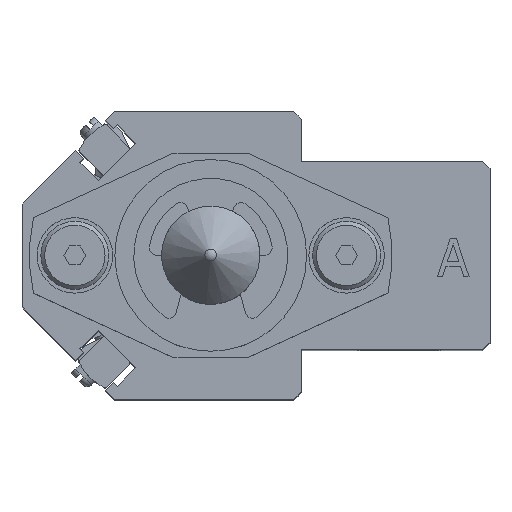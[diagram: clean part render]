
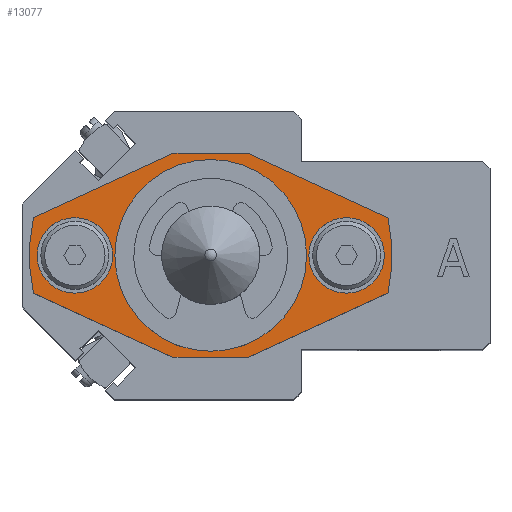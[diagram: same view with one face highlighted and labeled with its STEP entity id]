
A CAD part, top view. The second image highlights one B-rep face of the part: STEP entity #13077.
In plain terms, the highlighted planar face has unit normal (0, 0, 1).
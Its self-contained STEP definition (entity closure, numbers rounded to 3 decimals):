
#359=FACE_BOUND('',#4791,.T.);
#360=FACE_BOUND('',#4792,.T.);
#361=FACE_BOUND('',#4793,.T.);
#1538=LINE('',#21523,#2920);
#1545=LINE('',#21540,#2927);
#1546=LINE('',#21543,#2928);
#1547=LINE('',#21544,#2929);
#1548=LINE('',#21546,#2930);
#1549=LINE('',#21547,#2931);
#2920=VECTOR('',#17445,10.);
#2927=VECTOR('',#17460,10.);
#2928=VECTOR('',#17463,10.);
#2929=VECTOR('',#17464,10.);
#2930=VECTOR('',#17465,10.);
#2931=VECTOR('',#17466,10.);
#3402=CIRCLE('',#14339,10.5);
#3403=CIRCLE('',#14340,10.5);
#3410=CIRCLE('',#14351,24.);
#3412=CIRCLE('',#14354,24.);
#3415=CIRCLE('',#14361,5.);
#3416=CIRCLE('',#14362,5.);
#3417=CIRCLE('',#14363,5.);
#3418=CIRCLE('',#14364,5.);
#4099=FACE_OUTER_BOUND('',#4790,.T.);
#4790=EDGE_LOOP('',(#10995,#10996,#10997,#10998,#10999,#11000,#11001,#11002));
#4791=EDGE_LOOP('',(#11003,#11004));
#4792=EDGE_LOOP('',(#11005,#11006));
#4793=EDGE_LOOP('',(#11007,#11008));
#5955=VERTEX_POINT('',#21481);
#5956=VERTEX_POINT('',#21483);
#5964=VERTEX_POINT('',#21504);
#5965=VERTEX_POINT('',#21506);
#5968=VERTEX_POINT('',#21513);
#5969=VERTEX_POINT('',#21515);
#5971=VERTEX_POINT('',#21521);
#5977=VERTEX_POINT('',#21538);
#5978=VERTEX_POINT('',#21542);
#5979=VERTEX_POINT('',#21545);
#5980=VERTEX_POINT('',#21548);
#5981=VERTEX_POINT('',#21549);
#5982=VERTEX_POINT('',#21552);
#5983=VERTEX_POINT('',#21553);
#7687=EDGE_CURVE('',#5956,#5955,#3402,.T.);
#7688=EDGE_CURVE('',#5955,#5956,#3403,.T.);
#7697=EDGE_CURVE('',#5965,#5964,#3410,.T.);
#7701=EDGE_CURVE('',#5969,#5968,#3412,.T.);
#7705=EDGE_CURVE('',#5964,#5971,#1538,.T.);
#7714=EDGE_CURVE('',#5968,#5977,#1545,.T.);
#7715=EDGE_CURVE('',#5971,#5978,#1546,.T.);
#7716=EDGE_CURVE('',#5978,#5969,#1547,.T.);
#7717=EDGE_CURVE('',#5977,#5979,#1548,.T.);
#7718=EDGE_CURVE('',#5979,#5965,#1549,.T.);
#7719=EDGE_CURVE('',#5980,#5981,#3415,.T.);
#7720=EDGE_CURVE('',#5981,#5980,#3416,.T.);
#7721=EDGE_CURVE('',#5982,#5983,#3417,.T.);
#7722=EDGE_CURVE('',#5983,#5982,#3418,.T.);
#10995=ORIENTED_EDGE('',*,*,#7697,.T.);
#10996=ORIENTED_EDGE('',*,*,#7705,.T.);
#10997=ORIENTED_EDGE('',*,*,#7715,.T.);
#10998=ORIENTED_EDGE('',*,*,#7716,.T.);
#10999=ORIENTED_EDGE('',*,*,#7701,.T.);
#11000=ORIENTED_EDGE('',*,*,#7714,.T.);
#11001=ORIENTED_EDGE('',*,*,#7717,.T.);
#11002=ORIENTED_EDGE('',*,*,#7718,.T.);
#11003=ORIENTED_EDGE('',*,*,#7687,.T.);
#11004=ORIENTED_EDGE('',*,*,#7688,.T.);
#11005=ORIENTED_EDGE('',*,*,#7719,.T.);
#11006=ORIENTED_EDGE('',*,*,#7720,.T.);
#11007=ORIENTED_EDGE('',*,*,#7721,.T.);
#11008=ORIENTED_EDGE('',*,*,#7722,.T.);
#12274=PLANE('',#14360);
#13077=ADVANCED_FACE('',(#4099,#359,#360,#361),#12274,.T.);
#14339=AXIS2_PLACEMENT_3D('',#21484,#17404,#17405);
#14340=AXIS2_PLACEMENT_3D('',#21485,#17406,#17407);
#14351=AXIS2_PLACEMENT_3D('',#21507,#17430,#17431);
#14354=AXIS2_PLACEMENT_3D('',#21516,#17438,#17439);
#14360=AXIS2_PLACEMENT_3D('',#21541,#17461,#17462);
#14361=AXIS2_PLACEMENT_3D('',#21550,#17467,#17468);
#14362=AXIS2_PLACEMENT_3D('',#21551,#17469,#17470);
#14363=AXIS2_PLACEMENT_3D('',#21554,#17471,#17472);
#14364=AXIS2_PLACEMENT_3D('',#21555,#17473,#17474);
#17404=DIRECTION('center_axis',(0.,0.,-1.));
#17405=DIRECTION('ref_axis',(1.,0.,0.));
#17406=DIRECTION('center_axis',(0.,0.,-1.));
#17407=DIRECTION('ref_axis',(1.,0.,0.));
#17430=DIRECTION('center_axis',(0.,0.,1.));
#17431=DIRECTION('ref_axis',(0.978,-0.208,0.));
#17438=DIRECTION('center_axis',(0.,0.,1.));
#17439=DIRECTION('ref_axis',(-0.978,0.208,0.));
#17445=DIRECTION('',(0.908,-0.418,0.));
#17460=DIRECTION('',(-0.908,0.418,0.));
#17461=DIRECTION('center_axis',(0.,0.,1.));
#17462=DIRECTION('ref_axis',(1.,0.,0.));
#17463=DIRECTION('',(1.,0.,0.));
#17464=DIRECTION('',(0.908,0.418,0.));
#17465=DIRECTION('',(-1.,0.,0.));
#17466=DIRECTION('',(-0.908,-0.418,0.));
#17467=DIRECTION('center_axis',(0.,0.,-1.));
#17468=DIRECTION('ref_axis',(1.,0.,0.));
#17469=DIRECTION('center_axis',(0.,0.,-1.));
#17470=DIRECTION('ref_axis',(1.,0.,0.));
#17471=DIRECTION('center_axis',(0.,0.,-1.));
#17472=DIRECTION('ref_axis',(1.,0.,0.));
#17473=DIRECTION('center_axis',(0.,0.,-1.));
#17474=DIRECTION('ref_axis',(1.,0.,0.));
#21481=CARTESIAN_POINT('',(-10.5,0.,6.));
#21483=CARTESIAN_POINT('',(10.5,0.,6.));
#21484=CARTESIAN_POINT('Origin',(0.,0.,6.));
#21485=CARTESIAN_POINT('Origin',(0.,0.,6.));
#21504=CARTESIAN_POINT('',(-23.473,-5.001,6.));
#21506=CARTESIAN_POINT('',(-23.473,5.001,6.));
#21507=CARTESIAN_POINT('Origin',(0.,0.,6.));
#21513=CARTESIAN_POINT('',(23.473,5.001,6.));
#21515=CARTESIAN_POINT('',(23.473,-5.001,6.));
#21516=CARTESIAN_POINT('Origin',(0.,0.,6.));
#21521=CARTESIAN_POINT('',(-5.,-13.5,6.));
#21523=CARTESIAN_POINT('',(-15.7,-8.578,6.));
#21538=CARTESIAN_POINT('',(5.,13.5,6.));
#21540=CARTESIAN_POINT('',(15.7,8.578,6.));
#21541=CARTESIAN_POINT('Origin',(0.,0.,6.));
#21542=CARTESIAN_POINT('',(5.,-13.5,6.));
#21543=CARTESIAN_POINT('',(25.4,-13.5,6.));
#21544=CARTESIAN_POINT('',(15.7,-8.578,6.));
#21545=CARTESIAN_POINT('',(-5.,13.5,6.));
#21546=CARTESIAN_POINT('',(-25.4,13.5,6.));
#21547=CARTESIAN_POINT('',(-15.7,8.578,6.));
#21548=CARTESIAN_POINT('',(-13.,0.,6.));
#21549=CARTESIAN_POINT('',(-23.,0.,6.));
#21550=CARTESIAN_POINT('Origin',(-18.,0.,6.));
#21551=CARTESIAN_POINT('Origin',(-18.,0.,6.));
#21552=CARTESIAN_POINT('',(23.,0.,6.));
#21553=CARTESIAN_POINT('',(13.,0.,6.));
#21554=CARTESIAN_POINT('Origin',(18.,0.,6.));
#21555=CARTESIAN_POINT('Origin',(18.,0.,6.));
